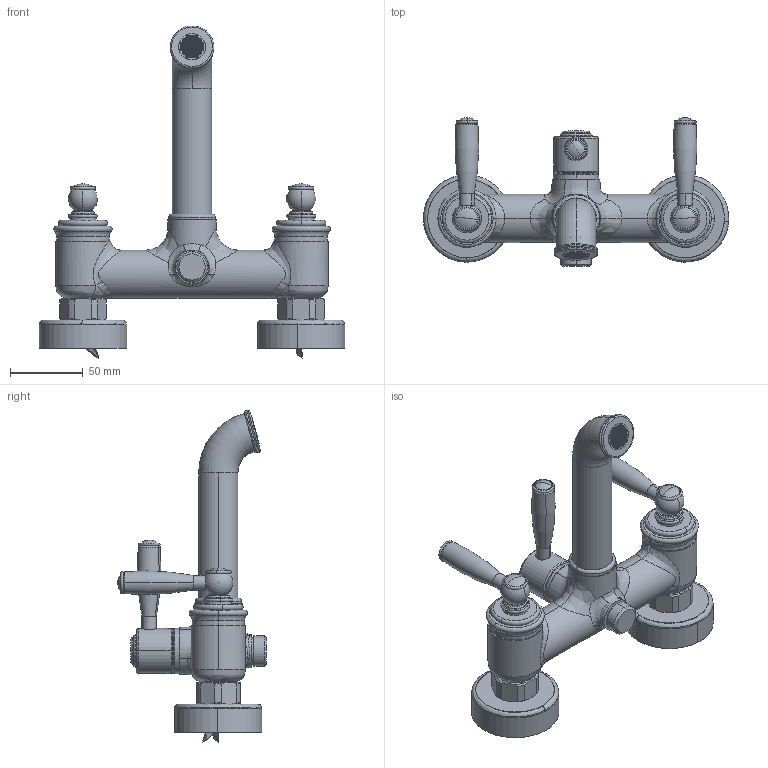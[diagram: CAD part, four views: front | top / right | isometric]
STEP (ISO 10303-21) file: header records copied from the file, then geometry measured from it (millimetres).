
FILE_DESCRIPTION (( 'STEP AP203' ), '1' );
FILE_NAME ('84101510 X ARCHITETTI.STEP', '2026-07-06T14:54:41', ( '' ), ( '' ), 'SwSTEP 2.0', 'SolidWorks 2020', '' );
FILE_SCHEMA (( 'CONFIG_CONTROL_DESIGN' ));
Length unit declared in the file: millimetre
Products named in the file (1): 84101510 X ARCHITETTI
Bounding box: 209.91 x 102.2 x 228.19 mm (x, y, z)
Surface area: 129560.3 mm2 (no closed solid volume)
Topology: 0 solids, 45 shells, 3296 faces, 8067 edges, 5286 vertices
Faces by surface type: plane 2451, bspline 345, cylinder 319, cone 91, torus 86, sphere 4
Entity records: 150645 total; most frequent: CARTESIAN_POINT 77394, ORIENTED_EDGE 15914, DIRECTION 12917, EDGE_CURVE 8029, VERTEX_POINT 5278, VECTOR 5093, LINE 5093, AXIS2_PLACEMENT_3D 3912
